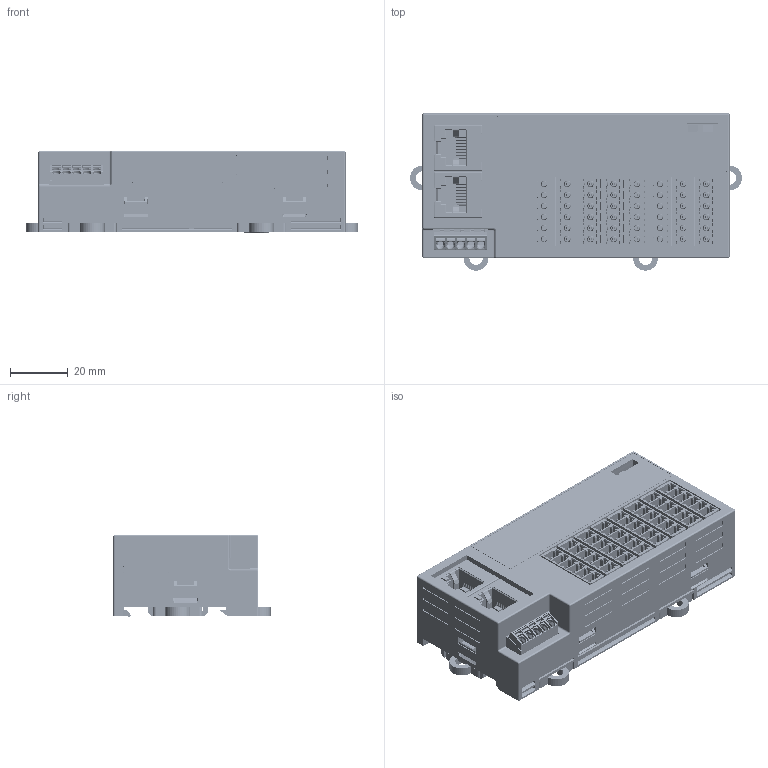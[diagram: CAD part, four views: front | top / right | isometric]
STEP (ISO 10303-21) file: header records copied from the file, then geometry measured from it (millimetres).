
FILE_DESCRIPTION( ('This file contains a STEP AP42 implementation' ,'as created by ZW3D STEP Interface translator.') ,'2;1' );
FILE_NAME( 'HCNXE-16萸-勤俋.stp' ,'23 420.112226', (''), ('ZWCAD Software Co.'), 'Version 1.0', 'ZW3D to STEP translator', '' );
FILE_SCHEMA(('AUTOMOTIVE_DESIGN { 1 0 10303 214 1 1 1 1 }'));
Length unit declared in the file: millimetre
Products named in the file (1): 0
Bounding box: 114.6 x 54.25 x 28.54 mm (x, y, z)
Volume: 142432.7 mm3; surface area: 74016.6 mm2
Topology: 50 solids, 84 shells, 9511 faces, 26541 edges, 17178 vertices
Faces by surface type: plane 6693, cylinder 1736, cone 392, bspline 354, torus 225, sphere 111
Full cylindrical faces by diameter (mm): 2.5 x2
Entity records: 330096 total; most frequent: CARTESIAN_POINT 77568, ORIENTED_EDGE 52886, DIRECTION 47096, EDGE_CURVE 26443, VECTOR 19650, LINE 19650, VERTEX_POINT 17169, AXIS2_PLACEMENT_3D 13723
